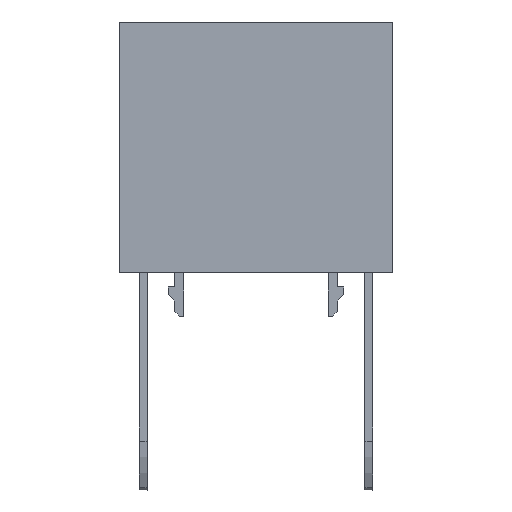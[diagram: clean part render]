
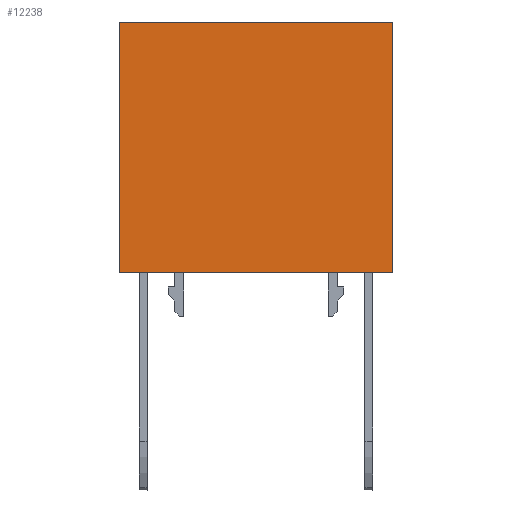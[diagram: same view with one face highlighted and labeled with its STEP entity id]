
A CAD part, front view. The second image highlights one B-rep face of the part: STEP entity #12238.
In plain terms, the highlighted planar face has unit normal (0, -1, 0).
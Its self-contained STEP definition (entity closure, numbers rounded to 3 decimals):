
#151=DIRECTION('',(-1.,0.,0.));
#152=VECTOR('',#151,29.05);
#153=CARTESIAN_POINT('',(14.525,-4.,13.825));
#154=LINE('',#153,#152);
#815=DIRECTION('',(0.,0.,-1.));
#816=VECTOR('',#815,26.65);
#817=CARTESIAN_POINT('',(14.525,-4.,13.825));
#818=LINE('',#817,#816);
#823=DIRECTION('',(0.,0.,-1.));
#824=VECTOR('',#823,26.65);
#825=CARTESIAN_POINT('',(-14.525,-4.,13.825));
#826=LINE('',#825,#824);
#856=DIRECTION('',(1.,0.,0.));
#857=VECTOR('',#856,29.05);
#858=CARTESIAN_POINT('',(-14.525,-4.,-12.825));
#859=LINE('',#858,#857);
#9847=CARTESIAN_POINT('',(-14.525,-4.,-12.825));
#9849=VERTEX_POINT('',#9847);
#9850=CARTESIAN_POINT('',(14.525,-4.,-12.825));
#9851=VERTEX_POINT('',#9850);
#9866=CARTESIAN_POINT('',(-14.525,-4.,13.825));
#9867=VERTEX_POINT('',#9866);
#9902=CARTESIAN_POINT('',(14.525,-4.,13.825));
#9903=VERTEX_POINT('',#9902);
#12225=CARTESIAN_POINT('',(14.525,-4.,0.));
#12226=DIRECTION('',(0.,-1.,0.));
#12227=DIRECTION('',(0.,0.,-1.));
#12228=AXIS2_PLACEMENT_3D('',#12225,#12226,#12227);
#12229=PLANE('',#12228);
#12231=ORIENTED_EDGE('',*,*,#12230,.F.);
#12232=ORIENTED_EDGE('',*,*,#11619,.F.);
#12233=ORIENTED_EDGE('',*,*,#12215,.T.);
#12235=ORIENTED_EDGE('',*,*,#12234,.F.);
#12236=EDGE_LOOP('',(#12231,#12232,#12233,#12235));
#12237=FACE_OUTER_BOUND('',#12236,.F.);
#12238=ADVANCED_FACE('',(#12237),#12229,.T.);
#11619=EDGE_CURVE('',#9903,#9867,#154,.T.);
#12215=EDGE_CURVE('',#9903,#9851,#818,.T.);
#12230=EDGE_CURVE('',#9867,#9849,#826,.T.);
#12234=EDGE_CURVE('',#9849,#9851,#859,.T.);
